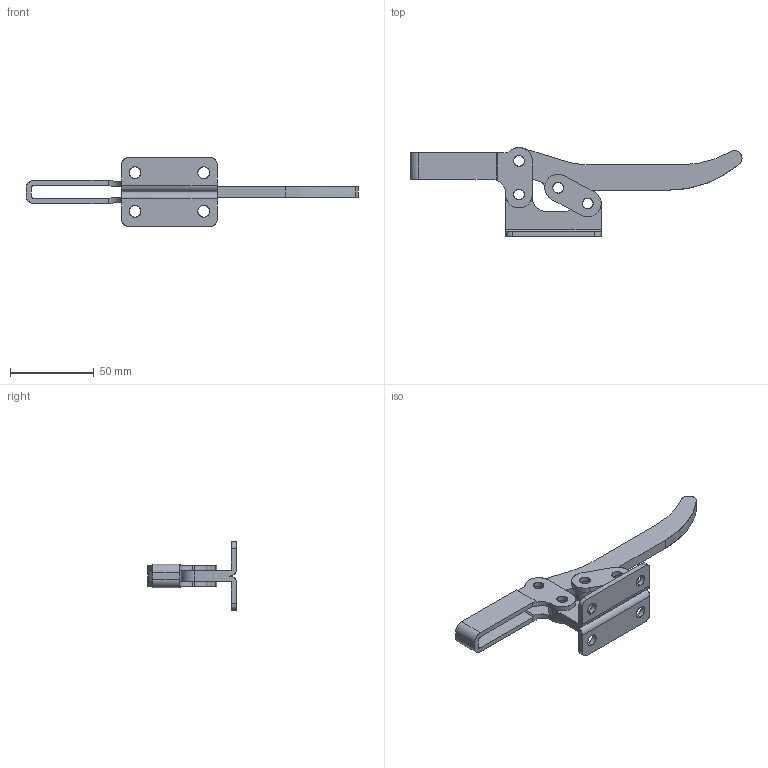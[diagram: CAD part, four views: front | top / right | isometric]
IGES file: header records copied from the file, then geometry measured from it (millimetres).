
Start section: Comment
Global section: file name: 203f.igs; native system:  By Spatial Corp.; preprocessor: XPlus PS/IGES 3.0; author: Author; organization: Title; date: 20050217.080652; units: inch
Bounding box: 198 x 53 x 41 mm (x, y, z)
Surface area: 24172 mm2 (no closed solid volume)
Topology: 0 solids, 0 shells, 117 faces, 642 edges, 642 vertices
Faces by surface type: revolution 71, extrusion 46
